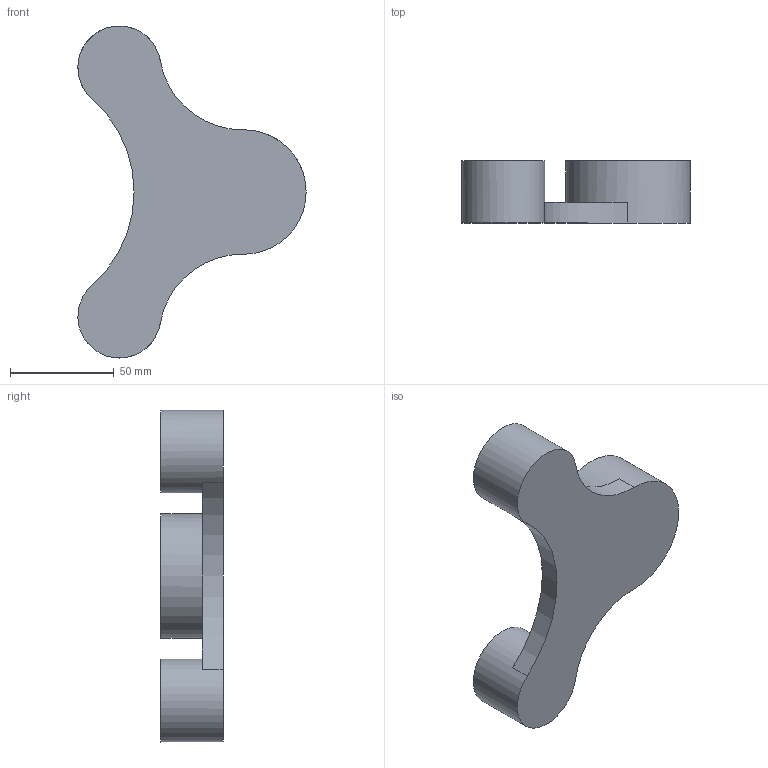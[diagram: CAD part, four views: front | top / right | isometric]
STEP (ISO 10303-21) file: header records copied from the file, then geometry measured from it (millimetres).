
FILE_DESCRIPTION(/* description */ (''),/* implementation_level */ '2;1');
FILE_NAME(/* name */ 'E:\OneDrive\Desktop\HGC_Tangency_04_2021\3D CAD Models\Task_8_HGC_Tangency_v1.stp',/* time_stamp */ '2021-04-10T20:31:28+01:00',/* author */ ('hunte'),/* organization */ (''),/* preprocessor_version */ 'ST-DEVELOPER v18.1',/* originating_system */ 'Autodesk Inventor 2020',/* authorisation */ '');
FILE_SCHEMA (('AUTOMOTIVE_DESIGN { 1 0 10303 214 3 1 1 }'));
Length unit declared in the file: millimetre
Products named in the file (1): Task_8_HGC_Tangency_v1
Bounding box: 110 x 30 x 160 mm (x, y, z)
Volume: 173564.9 mm3; surface area: 34315 mm2
Topology: 1 solids, 1 shells, 17 faces, 39 edges, 27 vertices
Faces by surface type: cylinder 9, plane 8
Full cylindrical faces by diameter (mm): 20 x3, 40 x2, 60 x1
Entity records: 545 total; most frequent: DIRECTION 102, CARTESIAN_POINT 84, ORIENTED_EDGE 78, AXIS2_PLACEMENT_3D 45, EDGE_CURVE 39, CIRCLE 27, VERTEX_POINT 27, EDGE_LOOP 20
